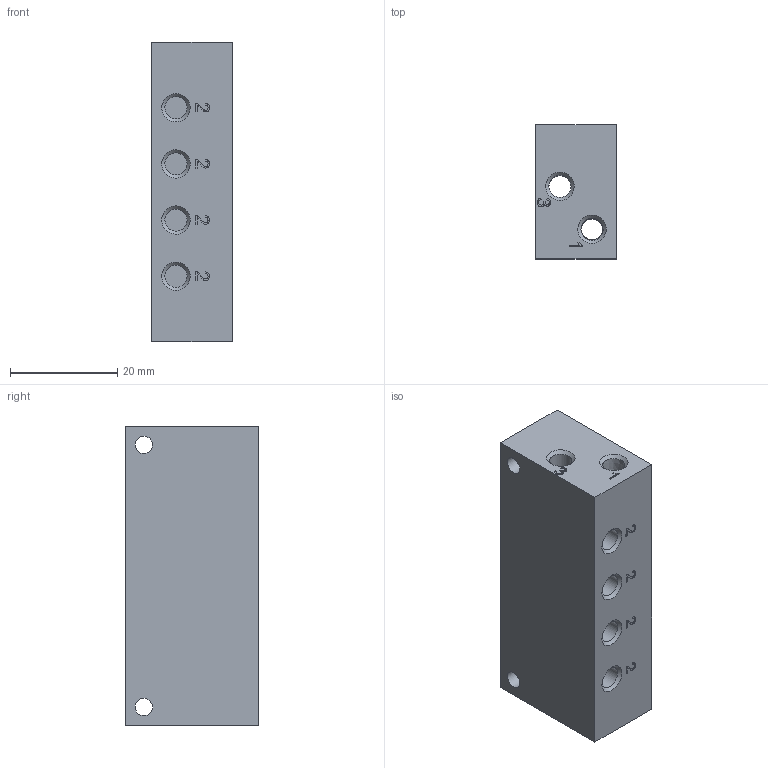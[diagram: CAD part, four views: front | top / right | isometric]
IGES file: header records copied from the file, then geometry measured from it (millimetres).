
Global section: file name: P395_04; native system: Autodesk Inventor 2014; preprocessor: unknown; date: 20160908.083125; units: millimetre
Bounding box: 15 x 25 x 56 mm (x, y, z)
Volume: 18674.7 mm3; surface area: 7381 mm2
Topology: 1 solids, 1 shells, 162 faces, 462 edges, 316 vertices
Faces by surface type: bspline 162
